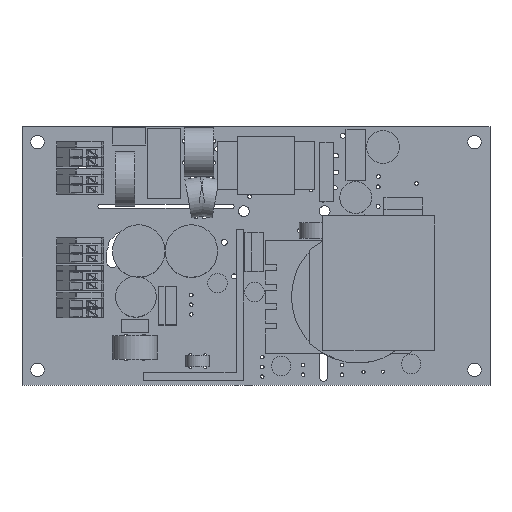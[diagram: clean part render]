
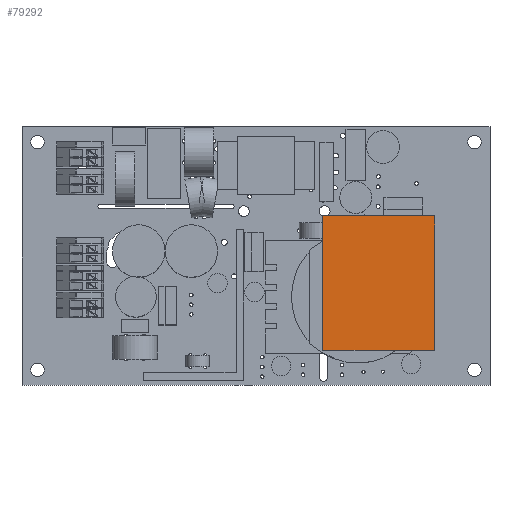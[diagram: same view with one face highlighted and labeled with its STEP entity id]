
A CAD part, top view. The second image highlights one B-rep face of the part: STEP entity #79292.
In plain terms, the highlighted planar face has unit normal (0, 0, 1).
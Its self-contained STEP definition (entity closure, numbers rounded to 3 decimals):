
#78978 = VERTEX_POINT('',#78979);
#78979 = CARTESIAN_POINT('',(14.358,17.25,1.));
#78986 = PLANE('',#78987);
#78987 = AXIS2_PLACEMENT_3D('',#78988,#78989,#78990);
#78988 = CARTESIAN_POINT('',(14.358,17.25,0.));
#78989 = DIRECTION('',(1.,0.,0.));
#78990 = DIRECTION('',(0.,-1.,0.));
#78998 = PLANE('',#78999);
#78999 = AXIS2_PLACEMENT_3D('',#79000,#79001,#79002);
#79000 = CARTESIAN_POINT('',(-14.358,17.25,0.));
#79001 = DIRECTION('',(0.,1.,0.));
#79002 = DIRECTION('',(1.,0.,0.));
#79010 = EDGE_CURVE('',#78978,#79011,#79013,.T.);
#79011 = VERTEX_POINT('',#79012);
#79012 = CARTESIAN_POINT('',(14.358,-17.25,1.));
#79013 = SURFACE_CURVE('',#79014,(#79018,#79025),.PCURVE_S1.);
#79014 = LINE('',#79015,#79016);
#79015 = CARTESIAN_POINT('',(14.358,17.25,1.));
#79016 = VECTOR('',#79017,1.);
#79017 = DIRECTION('',(0.,-1.,0.));
#79018 = PCURVE('',#78986,#79019);
#79019 = DEFINITIONAL_REPRESENTATION('',(#79020),#79024);
#79020 = LINE('',#79021,#79022);
#79021 = CARTESIAN_POINT('',(0.,-1.));
#79022 = VECTOR('',#79023,1.);
#79023 = DIRECTION('',(1.,0.));
#79024 = ( GEOMETRIC_REPRESENTATION_CONTEXT(2) 
PARAMETRIC_REPRESENTATION_CONTEXT() REPRESENTATION_CONTEXT('2D SPACE',''
  ) );
#79025 = PCURVE('',#79026,#79031);
#79026 = PLANE('',#79027);
#79027 = AXIS2_PLACEMENT_3D('',#79028,#79029,#79030);
#79028 = CARTESIAN_POINT('',(14.358,17.25,1.));
#79029 = DIRECTION('',(0.,0.,1.));
#79030 = DIRECTION('',(1.,0.,0.));
#79031 = DEFINITIONAL_REPRESENTATION('',(#79032),#79036);
#79032 = LINE('',#79033,#79034);
#79033 = CARTESIAN_POINT('',(0.,0.));
#79034 = VECTOR('',#79035,1.);
#79035 = DIRECTION('',(0.,-1.));
#79036 = ( GEOMETRIC_REPRESENTATION_CONTEXT(2) 
PARAMETRIC_REPRESENTATION_CONTEXT() REPRESENTATION_CONTEXT('2D SPACE',''
  ) );
#79054 = PLANE('',#79055);
#79055 = AXIS2_PLACEMENT_3D('',#79056,#79057,#79058);
#79056 = CARTESIAN_POINT('',(14.358,-17.25,0.));
#79057 = DIRECTION('',(0.,-1.,0.));
#79058 = DIRECTION('',(-1.,0.,0.));
#79096 = EDGE_CURVE('',#79011,#79097,#79099,.T.);
#79097 = VERTEX_POINT('',#79098);
#79098 = CARTESIAN_POINT('',(-14.358,-17.25,1.));
#79099 = SURFACE_CURVE('',#79100,(#79104,#79111),.PCURVE_S1.);
#79100 = LINE('',#79101,#79102);
#79101 = CARTESIAN_POINT('',(14.358,-17.25,1.));
#79102 = VECTOR('',#79103,1.);
#79103 = DIRECTION('',(-1.,0.,0.));
#79104 = PCURVE('',#79054,#79105);
#79105 = DEFINITIONAL_REPRESENTATION('',(#79106),#79110);
#79106 = LINE('',#79107,#79108);
#79107 = CARTESIAN_POINT('',(0.,-1.));
#79108 = VECTOR('',#79109,1.);
#79109 = DIRECTION('',(1.,0.));
#79110 = ( GEOMETRIC_REPRESENTATION_CONTEXT(2) 
PARAMETRIC_REPRESENTATION_CONTEXT() REPRESENTATION_CONTEXT('2D SPACE',''
  ) );
#79111 = PCURVE('',#79026,#79112);
#79112 = DEFINITIONAL_REPRESENTATION('',(#79113),#79117);
#79113 = LINE('',#79114,#79115);
#79114 = CARTESIAN_POINT('',(0.,-34.5));
#79115 = VECTOR('',#79116,1.);
#79116 = DIRECTION('',(-1.,0.));
#79117 = ( GEOMETRIC_REPRESENTATION_CONTEXT(2) 
PARAMETRIC_REPRESENTATION_CONTEXT() REPRESENTATION_CONTEXT('2D SPACE',''
  ) );
#79135 = PLANE('',#79136);
#79136 = AXIS2_PLACEMENT_3D('',#79137,#79138,#79139);
#79137 = CARTESIAN_POINT('',(-14.358,-17.25,0.));
#79138 = DIRECTION('',(-1.,0.,0.));
#79139 = DIRECTION('',(0.,1.,0.));
#79172 = EDGE_CURVE('',#79097,#79173,#79175,.T.);
#79173 = VERTEX_POINT('',#79174);
#79174 = CARTESIAN_POINT('',(-14.358,17.25,1.));
#79175 = SURFACE_CURVE('',#79176,(#79180,#79187),.PCURVE_S1.);
#79176 = LINE('',#79177,#79178);
#79177 = CARTESIAN_POINT('',(-14.358,-17.25,1.));
#79178 = VECTOR('',#79179,1.);
#79179 = DIRECTION('',(0.,1.,0.));
#79180 = PCURVE('',#79135,#79181);
#79181 = DEFINITIONAL_REPRESENTATION('',(#79182),#79186);
#79182 = LINE('',#79183,#79184);
#79183 = CARTESIAN_POINT('',(0.,-1.));
#79184 = VECTOR('',#79185,1.);
#79185 = DIRECTION('',(1.,0.));
#79186 = ( GEOMETRIC_REPRESENTATION_CONTEXT(2) 
PARAMETRIC_REPRESENTATION_CONTEXT() REPRESENTATION_CONTEXT('2D SPACE',''
  ) );
#79187 = PCURVE('',#79026,#79188);
#79188 = DEFINITIONAL_REPRESENTATION('',(#79189),#79193);
#79189 = LINE('',#79190,#79191);
#79190 = CARTESIAN_POINT('',(-28.715,-34.5));
#79191 = VECTOR('',#79192,1.);
#79192 = DIRECTION('',(0.,1.));
#79193 = ( GEOMETRIC_REPRESENTATION_CONTEXT(2) 
PARAMETRIC_REPRESENTATION_CONTEXT() REPRESENTATION_CONTEXT('2D SPACE',''
  ) );
#79243 = EDGE_CURVE('',#79173,#78978,#79244,.T.);
#79244 = SURFACE_CURVE('',#79245,(#79249,#79256),.PCURVE_S1.);
#79245 = LINE('',#79246,#79247);
#79246 = CARTESIAN_POINT('',(-14.358,17.25,1.));
#79247 = VECTOR('',#79248,1.);
#79248 = DIRECTION('',(1.,0.,0.));
#79249 = PCURVE('',#78998,#79250);
#79250 = DEFINITIONAL_REPRESENTATION('',(#79251),#79255);
#79251 = LINE('',#79252,#79253);
#79252 = CARTESIAN_POINT('',(0.,-1.));
#79253 = VECTOR('',#79254,1.);
#79254 = DIRECTION('',(1.,0.));
#79255 = ( GEOMETRIC_REPRESENTATION_CONTEXT(2) 
PARAMETRIC_REPRESENTATION_CONTEXT() REPRESENTATION_CONTEXT('2D SPACE',''
  ) );
#79256 = PCURVE('',#79026,#79257);
#79257 = DEFINITIONAL_REPRESENTATION('',(#79258),#79262);
#79258 = LINE('',#79259,#79260);
#79259 = CARTESIAN_POINT('',(-28.715,0.));
#79260 = VECTOR('',#79261,1.);
#79261 = DIRECTION('',(1.,0.));
#79262 = ( GEOMETRIC_REPRESENTATION_CONTEXT(2) 
PARAMETRIC_REPRESENTATION_CONTEXT() REPRESENTATION_CONTEXT('2D SPACE',''
  ) );
#79292 = ADVANCED_FACE('',(#79293),#79026,.T.);
#79293 = FACE_BOUND('',#79294,.F.);
#79294 = EDGE_LOOP('',(#79295,#79296,#79297,#79298));
#79295 = ORIENTED_EDGE('',*,*,#79010,.T.);
#79296 = ORIENTED_EDGE('',*,*,#79096,.T.);
#79297 = ORIENTED_EDGE('',*,*,#79172,.T.);
#79298 = ORIENTED_EDGE('',*,*,#79243,.T.);
